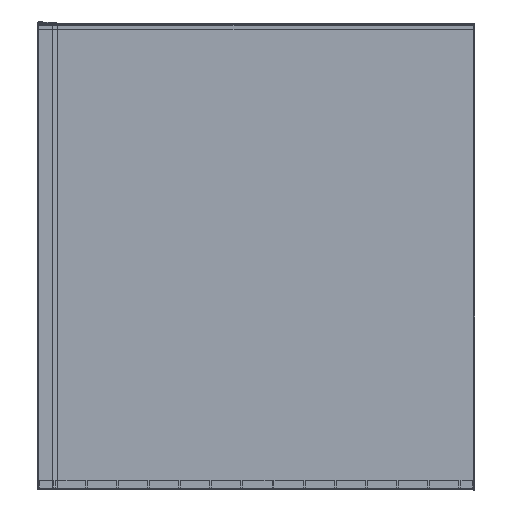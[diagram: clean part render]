
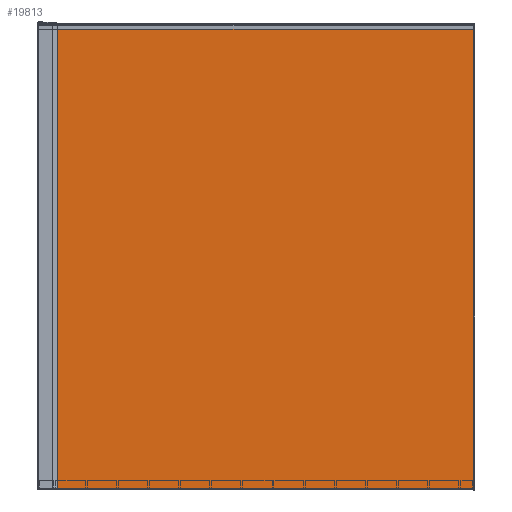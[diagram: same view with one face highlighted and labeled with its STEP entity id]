
A CAD part, left-side view. The second image highlights one B-rep face of the part: STEP entity #19813.
In plain terms, the highlighted planar face has unit normal (-1, 0, 0).
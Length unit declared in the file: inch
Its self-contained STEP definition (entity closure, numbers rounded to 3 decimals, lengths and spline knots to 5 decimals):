
#73 = CARTESIAN_POINT ( 'NONE',  ( -23.81432, -4.72408, 109.35038 ) ) ;
#2065 = CARTESIAN_POINT ( 'NONE',  ( -23.81432, -4.6402, 109.35038 ) ) ;
#3128 = VERTEX_POINT ( 'NONE', #11571 ) ;
#3392 = ORIENTED_EDGE ( 'NONE', *, *, #9602, .T. ) ;
#5373 = DIRECTION ( 'NONE',  ( 0., -1., 0. ) ) ;
#5401 = DIRECTION ( 'NONE',  ( -1., 0., 0. ) ) ;
#5467 = PLANE ( 'NONE',  #8210 ) ;
#5560 = CARTESIAN_POINT ( 'NONE',  ( -23.81432, -4.72408, 109.35038 ) ) ;
#5636 = VERTEX_POINT ( 'NONE', #14712 ) ;
#5889 = DIRECTION ( 'NONE',  ( 0., 1., 0. ) ) ;
#8210 = AXIS2_PLACEMENT_3D ( 'NONE', #5560, #5401, #5373 ) ;
#9580 = VERTEX_POINT ( 'NONE', #11300 ) ;
#9602 = EDGE_CURVE ( 'NONE', #9580, #5636, #18594, .T. ) ;
#9605 = EDGE_CURVE ( 'NONE', #5636, #3128, #18716, .T. ) ;
#9607 = EDGE_CURVE ( 'NONE', #3128, #25595, #18568, .T. ) ;
#9609 = EDGE_CURVE ( 'NONE', #25595, #9580, #18516, .T. ) ;
#11300 = CARTESIAN_POINT ( 'NONE',  ( -23.81432, -4.6402, 137.2665 ) ) ;
#11571 = CARTESIAN_POINT ( 'NONE',  ( -23.81432, 25.0983, 109.35038 ) ) ;
#13448 = ORIENTED_EDGE ( 'NONE', *, *, #9605, .T. ) ;
#14712 = CARTESIAN_POINT ( 'NONE',  ( -23.81432, 25.0983, 137.2665 ) ) ;
#16757 = CARTESIAN_POINT ( 'NONE',  ( -23.81432, -4.72408, 137.2665 ) ) ;
#18379 = DIRECTION ( 'NONE',  ( 0., 0., 1. ) ) ;
#18437 = VECTOR ( 'NONE', #18379, 39.37008 ) ;
#18487 = VECTOR ( 'NONE', #25062, 39.37008 ) ;
#18516 = LINE ( 'NONE', #19481, #18437 ) ;
#18540 = VECTOR ( 'NONE', #24755, 39.37008 ) ;
#18568 = LINE ( 'NONE', #73, #18487 ) ;
#18594 = LINE ( 'NONE', #16757, #18667 ) ;
#18667 = VECTOR ( 'NONE', #5889, 39.37008 ) ;
#18716 = LINE ( 'NONE', #24420, #18540 ) ;
#19481 = CARTESIAN_POINT ( 'NONE',  ( -23.81432, -4.6402, 109.35038 ) ) ;
#19813 = ADVANCED_FACE ( 'NONE', ( #21703 ), #5467, .T. ) ;
#19871 = ORIENTED_EDGE ( 'NONE', *, *, #9607, .T. ) ;
#21703 = FACE_OUTER_BOUND ( 'NONE', #21928, .T. ) ;
#21928 = EDGE_LOOP ( 'NONE', ( #19871, #22822, #3392, #13448 ) ) ;
#22822 = ORIENTED_EDGE ( 'NONE', *, *, #9609, .T. ) ;
#24420 = CARTESIAN_POINT ( 'NONE',  ( -23.81432, 25.0983, 109.35038 ) ) ;
#24755 = DIRECTION ( 'NONE',  ( 0., 0., -1. ) ) ;
#25062 = DIRECTION ( 'NONE',  ( 0., -1., 0. ) ) ;
#25595 = VERTEX_POINT ( 'NONE', #2065 ) ;
